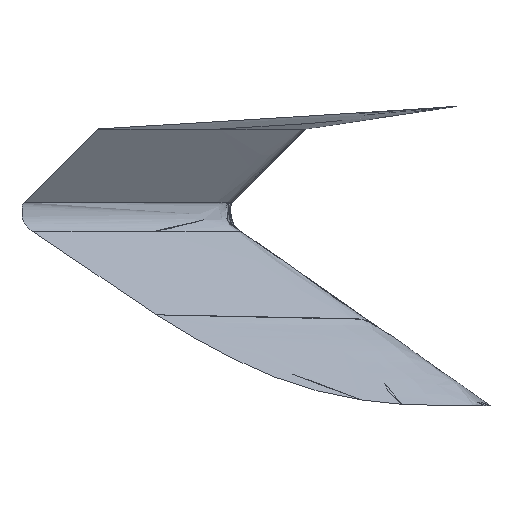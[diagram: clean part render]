
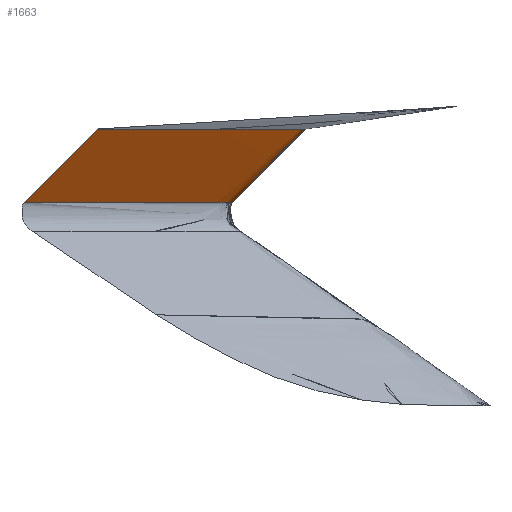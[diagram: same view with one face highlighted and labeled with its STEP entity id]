
A CAD part, front view. The second image highlights one B-rep face of the part: STEP entity #1663.
In plain terms, the highlighted free-form (B-spline) face has degree [3, 3] with [4, 16] control points.
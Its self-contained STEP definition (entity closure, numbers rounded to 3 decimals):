
#90=CARTESIAN_POINT('',(1234.859,0.,780.134));
#91=VERTEX_POINT('',#90);
#110=CARTESIAN_POINT('',(1179.128,0.,724.737));
#111=VERTEX_POINT('',#110);
#112=CARTESIAN_POINT('',(1179.128,0.,724.737));
#113=CARTESIAN_POINT('',(1197.705,0.,743.202));
#114=CARTESIAN_POINT('',(1216.282,0.,761.668));
#115=CARTESIAN_POINT('',(1234.859,0.,780.134));
#116=B_SPLINE_CURVE_WITH_KNOTS('',3,(#112,#113,#114,#115),.UNSPECIFIED.,.F.,.F.,(4,4),(0.,1.),.UNSPECIFIED.);
#117=EDGE_CURVE('',#111,#91,#116,.T.);
#1546=CARTESIAN_POINT('',(1021.747,-887.325,724.737));
#1547=CARTESIAN_POINT('',(1051.379,-860.707,724.737));
#1548=CARTESIAN_POINT('',(1095.88,-820.734,724.737));
#1549=CARTESIAN_POINT('',(1144.004,-777.506,724.737));
#1550=CARTESIAN_POINT('',(1164.441,-759.142,724.737));
#1551=CARTESIAN_POINT('',(1171.568,-752.455,724.737));
#1552=CARTESIAN_POINT('',(1179.196,-745.162,724.737));
#1553=CARTESIAN_POINT('',(1178.642,-731.895,724.737));
#1554=CARTESIAN_POINT('',(1179.182,-717.381,724.737));
#1555=CARTESIAN_POINT('',(1179.065,-702.256,724.737));
#1556=CARTESIAN_POINT('',(1179.142,-682.397,724.737));
#1557=CARTESIAN_POINT('',(1179.122,-647.505,724.737));
#1558=CARTESIAN_POINT('',(1179.13,-577.783,724.737));
#1559=CARTESIAN_POINT('',(1179.126,-358.62,724.737));
#1560=CARTESIAN_POINT('',(1179.129,-159.389,724.737));
#1561=CARTESIAN_POINT('',(1179.128,0.,724.737));
#1562=CARTESIAN_POINT('',(1040.325,-887.325,743.202));
#1563=CARTESIAN_POINT('',(1074.354,-856.73,743.063));
#1564=CARTESIAN_POINT('',(1127.951,-808.622,743.419));
#1565=CARTESIAN_POINT('',(1179.211,-762.251,742.642));
#1566=CARTESIAN_POINT('',(1192.444,-749.239,742.138));
#1567=CARTESIAN_POINT('',(1190.468,-749.203,739.914));
#1568=CARTESIAN_POINT('',(1193.622,-743.151,739.81));
#1569=CARTESIAN_POINT('',(1192.676,-747.566,740.513));
#1570=CARTESIAN_POINT('',(1195.407,-740.48,739.836));
#1571=CARTESIAN_POINT('',(1195.456,-729.229,742.197));
#1572=CARTESIAN_POINT('',(1196.178,-746.616,741.674));
#1573=CARTESIAN_POINT('',(1197.159,-670.746,742.678));
#1574=CARTESIAN_POINT('',(1197.544,-658.958,743.034));
#1575=CARTESIAN_POINT('',(1197.752,-210.72,743.257));
#1576=CARTESIAN_POINT('',(1197.694,-220.436,743.188));
#1577=CARTESIAN_POINT('',(1197.705,0.,743.202));
#1578=CARTESIAN_POINT('',(1058.902,-887.325,761.668));
#1579=CARTESIAN_POINT('',(1093.505,-856.457,761.821));
#1580=CARTESIAN_POINT('',(1145.33,-809.201,761.29));
#1581=CARTESIAN_POINT('',(1199.662,-761.104,761.75));
#1582=CARTESIAN_POINT('',(1210.422,-748.53,759.128));
#1583=CARTESIAN_POINT('',(1212.1,-747.224,759.642));
#1584=CARTESIAN_POINT('',(1195.025,-743.57,742.008));
#1585=CARTESIAN_POINT('',(1198.691,-755.229,746.147));
#1586=CARTESIAN_POINT('',(1210.804,-753.013,757.378));
#1587=CARTESIAN_POINT('',(1214.282,-729.146,759.226));
#1588=CARTESIAN_POINT('',(1214.4,-752.245,759.974));
#1589=CARTESIAN_POINT('',(1215.694,-676.582,761.033));
#1590=CARTESIAN_POINT('',(1216.125,-657.379,761.532));
#1591=CARTESIAN_POINT('',(1216.324,-212.333,761.69));
#1592=CARTESIAN_POINT('',(1216.273,-219.68,761.668));
#1593=CARTESIAN_POINT('',(1216.282,0.,761.668));
#1594=CARTESIAN_POINT('',(1077.479,-887.325,780.134));
#1595=CARTESIAN_POINT('',(1107.111,-860.707,780.134));
#1596=CARTESIAN_POINT('',(1151.611,-820.734,780.134));
#1597=CARTESIAN_POINT('',(1199.735,-777.506,780.134));
#1598=CARTESIAN_POINT('',(1220.172,-759.142,780.134));
#1599=CARTESIAN_POINT('',(1227.299,-752.455,780.134));
#1600=CARTESIAN_POINT('',(1234.927,-745.162,780.134));
#1601=CARTESIAN_POINT('',(1234.373,-731.895,780.134));
#1602=CARTESIAN_POINT('',(1234.913,-717.381,780.134));
#1603=CARTESIAN_POINT('',(1234.796,-702.256,780.134));
#1604=CARTESIAN_POINT('',(1234.873,-682.397,780.134));
#1605=CARTESIAN_POINT('',(1234.854,-647.505,780.134));
#1606=CARTESIAN_POINT('',(1234.862,-577.783,780.134));
#1607=CARTESIAN_POINT('',(1234.858,-358.62,780.134));
#1608=CARTESIAN_POINT('',(1234.86,-159.389,780.134));
#1609=CARTESIAN_POINT('',(1234.859,0.,780.134));
#1610=B_SPLINE_SURFACE_WITH_KNOTS('',3,3,((#1546,#1547,#1548,#1549,#1550,#1551,#1552,#1553,#1554,#1555,#1556,#1557,#1558,#1559,#1560,#1561),(#1562,#1563,#1564,#1565,#1566,#1567,#1568,#1569,#1570,#1571,#1572,#1573,#1574,#1575,#1576,#1577),(#1578,#1579,#1580,#1581,#1582,#1583,#1584,#1585,#1586,#1587,#1588,#1589,#1590,#1591,#1592,#1593),(#1594,#1595,#1596,#1597,#1598,#1599,#1600,#1601,#1602,#1603,#1604,#1605,#1606,#1607,#1608,#1609)),.UNSPECIFIED.,.F.,.F.,.F.,(4,4),(4,1,1,1,1,1,1,1,1,1,1,1,1,4),(0.,1.),(0.,0.125,0.188,0.203,0.211,0.219,0.234,0.25,0.266,0.281,0.313,0.375,0.5,1.),.UNSPECIFIED.);
#1611=CARTESIAN_POINT('',(1021.747,-887.325,724.737));
#1612=VERTEX_POINT('',#1611);
#1613=CARTESIAN_POINT('',(1077.479,-887.325,780.134));
#1614=VERTEX_POINT('',#1613);
#1615=CARTESIAN_POINT('',(1021.747,-887.325,724.737));
#1616=CARTESIAN_POINT('',(1040.325,-887.325,743.202));
#1617=CARTESIAN_POINT('',(1058.902,-887.325,761.668));
#1618=CARTESIAN_POINT('',(1077.479,-887.325,780.134));
#1619=B_SPLINE_CURVE_WITH_KNOTS('',3,(#1615,#1616,#1617,#1618),.UNSPECIFIED.,.F.,.F.,(4,4),(0.,1.),.UNSPECIFIED.);
#1620=EDGE_CURVE('',#1612,#1614,#1619,.T.);
#1621=CARTESIAN_POINT('',(1234.859,0.,780.134));
#1622=CARTESIAN_POINT('',(1234.86,-159.389,780.134));
#1623=CARTESIAN_POINT('',(1234.858,-358.62,780.134));
#1624=CARTESIAN_POINT('',(1234.862,-577.783,780.134));
#1625=CARTESIAN_POINT('',(1234.854,-647.505,780.134));
#1626=CARTESIAN_POINT('',(1234.873,-682.397,780.134));
#1627=CARTESIAN_POINT('',(1234.796,-702.256,780.134));
#1628=CARTESIAN_POINT('',(1234.913,-717.381,780.134));
#1629=CARTESIAN_POINT('',(1234.373,-731.895,780.134));
#1630=CARTESIAN_POINT('',(1234.927,-745.162,780.134));
#1631=CARTESIAN_POINT('',(1227.299,-752.455,780.134));
#1632=CARTESIAN_POINT('',(1220.172,-759.142,780.134));
#1633=CARTESIAN_POINT('',(1199.735,-777.506,780.134));
#1634=CARTESIAN_POINT('',(1151.611,-820.734,780.134));
#1635=CARTESIAN_POINT('',(1107.111,-860.707,780.134));
#1636=CARTESIAN_POINT('',(1077.479,-887.325,780.134));
#1637=B_SPLINE_CURVE_WITH_KNOTS('',3,(#1621,#1622,#1623,#1624,#1625,#1626,#1627,#1628,#1629,#1630,#1631,#1632,#1633,#1634,#1635,#1636),.UNSPECIFIED.,.F.,.F.,(4,1,1,1,1,1,1,1,1,1,1,1,1,4),(0.,0.5,0.625,0.688,0.719,0.734,0.75,0.766,0.781,0.789,0.797,0.813,0.875,1.),.UNSPECIFIED.);
#1638=EDGE_CURVE('',#91,#1614,#1637,.T.);
#1639=CARTESIAN_POINT('',(1021.747,-887.325,724.737));
#1640=CARTESIAN_POINT('',(1051.379,-860.707,724.737));
#1641=CARTESIAN_POINT('',(1095.88,-820.734,724.737));
#1642=CARTESIAN_POINT('',(1144.004,-777.506,724.737));
#1643=CARTESIAN_POINT('',(1164.441,-759.142,724.737));
#1644=CARTESIAN_POINT('',(1171.568,-752.455,724.737));
#1645=CARTESIAN_POINT('',(1179.196,-745.162,724.737));
#1646=CARTESIAN_POINT('',(1178.642,-731.895,724.737));
#1647=CARTESIAN_POINT('',(1179.182,-717.381,724.737));
#1648=CARTESIAN_POINT('',(1179.065,-702.256,724.737));
#1649=CARTESIAN_POINT('',(1179.142,-682.397,724.737));
#1650=CARTESIAN_POINT('',(1179.122,-647.505,724.737));
#1651=CARTESIAN_POINT('',(1179.13,-577.783,724.737));
#1652=CARTESIAN_POINT('',(1179.126,-358.62,724.737));
#1653=CARTESIAN_POINT('',(1179.129,-159.389,724.737));
#1654=CARTESIAN_POINT('',(1179.128,0.,724.737));
#1655=B_SPLINE_CURVE_WITH_KNOTS('',3,(#1639,#1640,#1641,#1642,#1643,#1644,#1645,#1646,#1647,#1648,#1649,#1650,#1651,#1652,#1653,#1654),.UNSPECIFIED.,.F.,.F.,(4,1,1,1,1,1,1,1,1,1,1,1,1,4),(0.,0.125,0.188,0.203,0.211,0.219,0.234,0.25,0.266,0.281,0.313,0.375,0.5,1.),.UNSPECIFIED.);
#1656=EDGE_CURVE('',#1612,#111,#1655,.T.);
#1657=ORIENTED_EDGE('',*,*,#1656,.T.);
#1658=ORIENTED_EDGE('',*,*,#117,.T.);
#1659=ORIENTED_EDGE('',*,*,#1638,.T.);
#1660=ORIENTED_EDGE('',*,*,#1620,.F.);
#1661=EDGE_LOOP('',(#1657,#1658,#1659,#1660));
#1662=FACE_OUTER_BOUND('',#1661,.T.);
#1663=ADVANCED_FACE('Body_Front_Cowl_L_000',(#1662),#1610,.F.);
